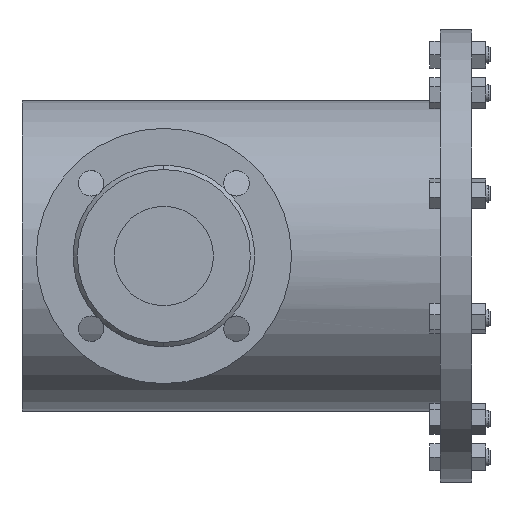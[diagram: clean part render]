
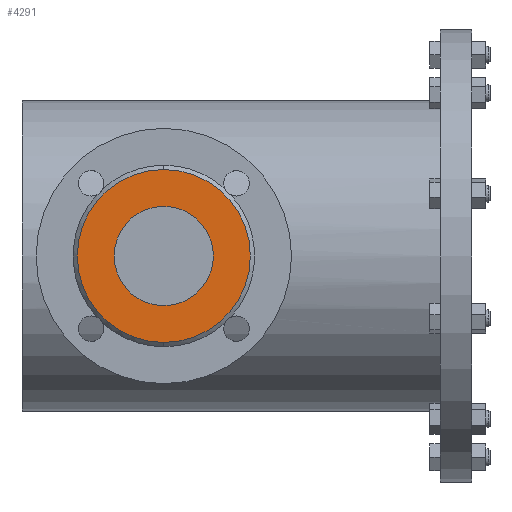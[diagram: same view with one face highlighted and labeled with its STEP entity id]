
A CAD part, left-side view. The second image highlights one B-rep face of the part: STEP entity #4291.
In plain terms, the highlighted planar face has unit normal (-1, 0, 0).
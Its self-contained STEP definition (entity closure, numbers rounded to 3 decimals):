
#247 = EDGE_CURVE ( 'NONE', #6256, #7658, #4382, .T. ) ;
#255 = DIRECTION ( 'NONE',  ( 0., 0., -1. ) ) ;
#329 = ORIENTED_EDGE ( 'NONE', *, *, #1216, .F. ) ;
#429 = ORIENTED_EDGE ( 'NONE', *, *, #7026, .T. ) ;
#444 = AXIS2_PLACEMENT_3D ( 'NONE', #5189, #1935, #5063 ) ;
#841 = CARTESIAN_POINT ( 'NONE',  ( -210., 200., 0. ) ) ;
#850 = FACE_BOUND ( 'NONE', #5848, .T. ) ;
#878 = DIRECTION ( 'NONE',  ( -1., 0., 0. ) ) ;
#888 = DIRECTION ( 'NONE',  ( 1., 0., 0. ) ) ;
#1216 = EDGE_CURVE ( 'NONE', #1284, #6925, #7780, .T. ) ;
#1256 = CARTESIAN_POINT ( 'NONE',  ( -210., 200., 0. ) ) ;
#1284 = VERTEX_POINT ( 'NONE', #1983 ) ;
#1296 = CIRCLE ( 'NONE', #6057, 35. ) ;
#1520 = PLANE ( 'NONE',  #6454 ) ;
#1935 = DIRECTION ( 'NONE',  ( -1., 0., 0. ) ) ;
#1944 = CARTESIAN_POINT ( 'NONE',  ( -210., 200., 35. ) ) ;
#1983 = CARTESIAN_POINT ( 'NONE',  ( -210., 200., -35. ) ) ;
#2810 = CARTESIAN_POINT ( 'NONE',  ( -210., 200., 0. ) ) ;
#3254 = AXIS2_PLACEMENT_3D ( 'NONE', #841, #878, #8094 ) ;
#3445 = FACE_OUTER_BOUND ( 'NONE', #4985, .T. ) ;
#3610 = DIRECTION ( 'NONE',  ( 0., 0., 1. ) ) ;
#3656 = ORIENTED_EDGE ( 'NONE', *, *, #4350, .F. ) ;
#3665 = CIRCLE ( 'NONE', #3254, 61. ) ;
#4119 = AXIS2_PLACEMENT_3D ( 'NONE', #1256, #4458, #4543 ) ;
#4291 = ADVANCED_FACE ( 'NONE', ( #850, #3445 ), #1520, .F. ) ;
#4350 = EDGE_CURVE ( 'NONE', #6925, #1284, #1296, .T. ) ;
#4382 = CIRCLE ( 'NONE', #444, 61. ) ;
#4458 = DIRECTION ( 'NONE',  ( -1., 0., 0. ) ) ;
#4543 = DIRECTION ( 'NONE',  ( 0., 0., 1. ) ) ;
#4703 = ORIENTED_EDGE ( 'NONE', *, *, #247, .T. ) ;
#4946 = CARTESIAN_POINT ( 'NONE',  ( -210., 200., -61. ) ) ;
#4985 = EDGE_LOOP ( 'NONE', ( #4703, #429 ) ) ;
#5063 = DIRECTION ( 'NONE',  ( 0., 0., 1. ) ) ;
#5189 = CARTESIAN_POINT ( 'NONE',  ( -210., 200., 0. ) ) ;
#5848 = EDGE_LOOP ( 'NONE', ( #3656, #329 ) ) ;
#6057 = AXIS2_PLACEMENT_3D ( 'NONE', #8227, #6248, #3610 ) ;
#6248 = DIRECTION ( 'NONE',  ( -1., 0., 0. ) ) ;
#6256 = VERTEX_POINT ( 'NONE', #4946 ) ;
#6454 = AXIS2_PLACEMENT_3D ( 'NONE', #2810, #888, #255 ) ;
#6925 = VERTEX_POINT ( 'NONE', #1944 ) ;
#7026 = EDGE_CURVE ( 'NONE', #7658, #6256, #3665, .T. ) ;
#7193 = CARTESIAN_POINT ( 'NONE',  ( -210., 200., 61. ) ) ;
#7658 = VERTEX_POINT ( 'NONE', #7193 ) ;
#7780 = CIRCLE ( 'NONE', #4119, 35. ) ;
#8094 = DIRECTION ( 'NONE',  ( 0., 0., 1. ) ) ;
#8227 = CARTESIAN_POINT ( 'NONE',  ( -210., 200., 0. ) ) ;
